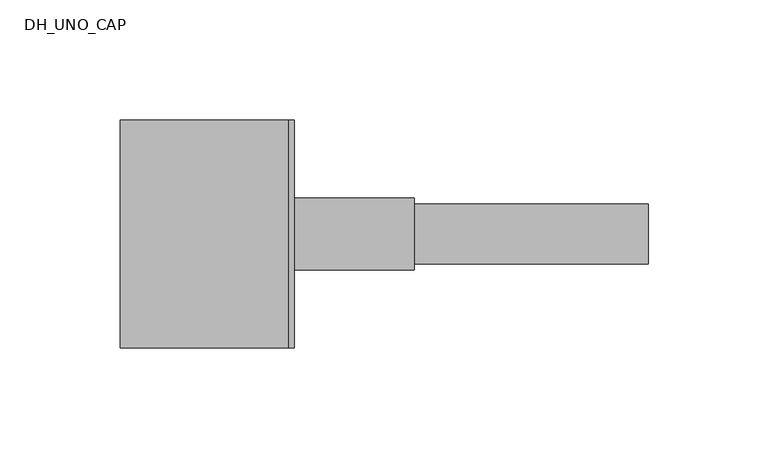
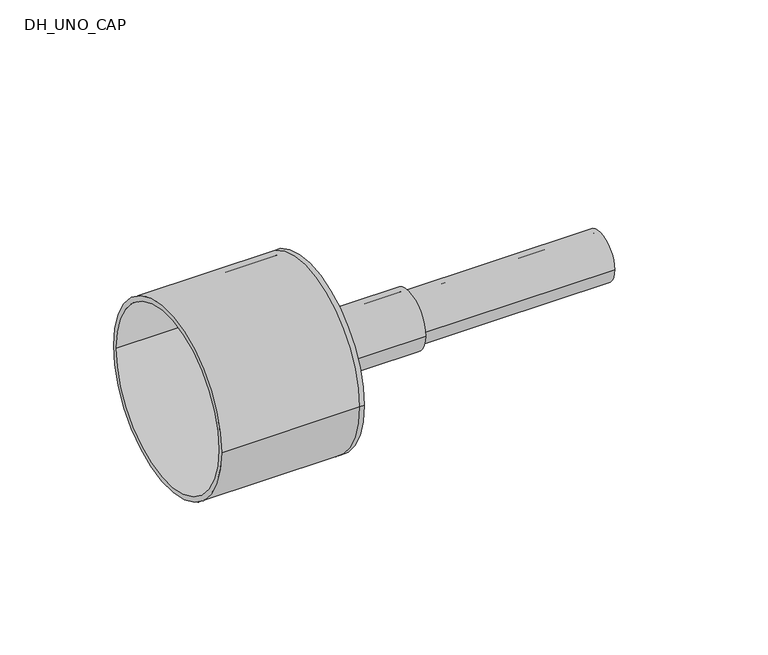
"""IFC4 building model written with IfcOpenShell, lengths in millimetres: pipe fitting geometry, DH_UNO_CAP : INSULPEX UNO + 11 Heating - Rubber Cap."""

from ifc_helpers import new_model, si_unit, point, frame, origin, origin_2d, place, context, project, spatial, polyline, circle_curve, trimmed, segment, composite_curve, outline, extrude, source, transform, mapped, element, save
from ifc_brep_helpers import plane_surface, cylinder_surface, revolved_surface, advanced_brep


def dh_uno_cap_46725ca9(model_context):
    return source(origin(), model_context, "Body", "SolidModel", [
        extrude(outline(composite_curve([segment(trimmed(circle_curve(origin_2d(), 12.5), [point((-12.5, 0.0))], [point((12.5, 0.0))], False, "CARTESIAN"), True, "CONTINUOUS"), segment(trimmed(circle_curve(origin_2d(), 12.5), [point((12.5, 0.0))], [point((-12.5, 0.0))], False, "CARTESIAN"), True, "CONTINUOUS")], self_intersect=False), holes=[composite_curve([segment(trimmed(circle_curve(origin_2d(), 10.2), [point((-10.2, 0.0))], [point((10.2, 0.0))], True, "CARTESIAN"), True, "CONTINUOUS"), segment(trimmed(circle_curve(origin_2d(), 10.2), [point((10.2, 0.0))], [point((-10.2, 0.0))], True, "CARTESIAN"), True, "CONTINUOUS")], self_intersect=False)]), frame((0.0, 0.0, 0.0), z_axis=(1.0, 0.0, 0.0), x_axis=(0.0, 1.0, 0.0)), (0.0, 0.0, 1.0), 150.0),
        advanced_brep(
        [(-70.0, -47.5, 0.0), (-70.0, 47.5, 0.0), (-70.0, -45.0, 0.0), (-70.0, 45.0, 0.0), (0.0, -45.0, 0.0), (0.0, 45.0, 0.0), (0.0, -47.5, 0.0), (0.0, 47.5, 0.0), (0.0, 12.5, 0.0), (0.0, -12.5, 0.0), (2.5, -47.5, 0.0), (2.5, 47.5, 0.0), (2.5, -12.5, 0.0), (2.5, 12.5, 0.0)],
        [
            (0, 1, circle_curve(frame((-70.0, 0.0, 0.0), z_axis=(-1.0, 0.0, 0.0), x_axis=(0.0, 1.0, 0.0)), 47.5)),
            (1, 0, circle_curve(frame((-70.0, 0.0, 0.0), z_axis=(-1.0, 0.0, 0.0), x_axis=(0.0, 1.0, 0.0)), 47.5)),
            (2, 3, circle_curve(frame((-70.0, 0.0, 0.0), z_axis=(1.0, 0.0, 0.0), x_axis=(0.0, 1.0, 0.0)), 45.0)),
            (3, 2, circle_curve(frame((-70.0, 0.0, 0.0), z_axis=(1.0, 0.0, 0.0), x_axis=(0.0, 1.0, 0.0)), 45.0)),
            (2, 4),
            (4, 5, circle_curve(frame((0.0, 0.0, 0.0), z_axis=(1.0, 0.0, 0.0), x_axis=(0.0, 1.0, 0.0)), 45.0)),
            (5, 3),
            (5, 4, circle_curve(frame((0.0, 0.0, 0.0), z_axis=(1.0, 0.0, 0.0), x_axis=(0.0, 1.0, 0.0)), 45.0)),
            (0, 6),
            (6, 7, circle_curve(frame((0.0, 0.0, 0.0), z_axis=(-1.0, 0.0, 0.0), x_axis=(0.0, 1.0, 0.0)), 47.5)),
            (7, 1),
            (7, 6, circle_curve(frame((0.0, 0.0, 0.0), z_axis=(-1.0, 0.0, 0.0), x_axis=(0.0, 1.0, 0.0)), 47.5)),
            (8, 9, circle_curve(frame((0.0, 0.0, 0.0), z_axis=(1.0, 0.0, 0.0), x_axis=(0.0, 1.0, 0.0)), 12.5)),
            (9, 8, circle_curve(frame((0.0, 0.0, 0.0), z_axis=(1.0, 0.0, 0.0), x_axis=(0.0, 1.0, 0.0)), 12.5)),
            (10, 11, circle_curve(frame((2.5, 0.0, 0.0), z_axis=(1.0, 0.0, 0.0), x_axis=(0.0, 1.0, 0.0)), 47.5)),
            (11, 10, circle_curve(frame((2.5, 0.0, 0.0), z_axis=(1.0, 0.0, 0.0), x_axis=(0.0, 1.0, 0.0)), 47.5)),
            (12, 13, circle_curve(frame((2.5, 0.0, 0.0), z_axis=(-1.0, 0.0, 0.0), x_axis=(0.0, 1.0, 0.0)), 12.5)),
            (13, 12, circle_curve(frame((2.5, 0.0, 0.0), z_axis=(-1.0, 0.0, 0.0), x_axis=(0.0, 1.0, 0.0)), 12.5)),
            (11, 7),
            (6, 10),
            (8, 13),
            (12, 9),
        ],
        [
            plane_surface(frame((-70.0, 0.0, 0.0), z_axis=(-1.0, 0.0, 0.0), x_axis=(0.0, 0.0, 1.0))),
            revolved_surface(polyline([(0.0, 45.0, 0.0), (-70.0, 45.0, 0.0)]), (-70.0, 0.0, 0.0), (1.0, 0.0, 0.0)),
            cylinder_surface(frame((-70.0, 0.0, 0.0), z_axis=(-1.0, 0.0, 0.0), x_axis=(0.0, 1.0, 0.0)), 47.5),
            plane_surface(frame((0.0, 0.0, 0.0), z_axis=(-1.0, 0.0, 0.0), x_axis=(0.0, 0.0, 1.0))),
            plane_surface(frame((2.5, 0.0, 0.0), z_axis=(1.0, 0.0, 0.0), x_axis=(0.0, 0.0, 1.0))),
            cylinder_surface(frame((0.0, 0.0, 0.0), z_axis=(-1.0, 0.0, 0.0), x_axis=(0.0, 1.0, 0.0)), 47.5),
            revolved_surface(polyline([(0.0, 12.5, 0.0), (2.5, 12.5, 0.0)]), (0.0, 0.0, 0.0), (-1.0, 0.0, 0.0)),
        ],
        [
            (0, [[1, 2], [3, 4]]),
            (1, [[-3, 5, 6, 7]]),
            (1, [[-4, -7, 8, -5]]),
            (2, [[-1, 9, 10, 11]]),
            (2, [[-2, -11, 12, -9]]),
            (3, [[-6, -8], [13, 14]]),
            (4, [[15, 16], [17, 18]]),
            (5, [[-16, 19, -10, 20]]),
            (5, [[-15, -20, -12, -19]]),
            (6, [[21, -17, 22, -13]]),
            (6, [[-21, -14, -22, -18]]),
        ],
    ),
        extrude(outline(composite_curve([segment(trimmed(circle_curve(origin_2d(), 15.0), [point((-15.0, 0.0))], [point((15.0, 0.0))], False, "CARTESIAN"), True, "CONTINUOUS"), segment(trimmed(circle_curve(origin_2d(), 15.0), [point((15.0, 0.0))], [point((-15.0, 0.0))], False, "CARTESIAN"), True, "CONTINUOUS")], self_intersect=False), holes=[composite_curve([segment(trimmed(circle_curve(origin_2d(), 12.5), [point((-12.5, 0.0))], [point((12.5, 0.0))], True, "CARTESIAN"), True, "CONTINUOUS"), segment(trimmed(circle_curve(origin_2d(), 12.5), [point((12.5, 0.0))], [point((-12.5, 0.0))], True, "CARTESIAN"), True, "CONTINUOUS")], self_intersect=False)]), frame((2.5, 0.0, 0.0), z_axis=(1.0, 0.0, 0.0), x_axis=(0.0, 1.0, 0.0)), (0.0, 0.0, 1.0), 50.0),
    ])


if __name__ == "__main__":
    model = new_model("IFC4")
    model_context = context("Model", 3, world=origin())
    ifc_project = project(units=[si_unit("LENGTHUNIT", "METRE", prefix="MILLI")], contexts=[model_context])
    site = spatial("IfcSite", under=ifc_project)
    building = spatial("IfcBuilding", under=site)
    placement = place(None, origin())
    dh_uno_cap_shape = dh_uno_cap_46725ca9(model_context)
    element("IfcPipeFitting", 1, ObjectType="DH_UNO_CAP : INSULPEX UNO + 11 Heating - Rubber Cap", at=placement, inside=building, context=model_context, shape_type="MappedRepresentation", body=[
        mapped(dh_uno_cap_shape, transform((0.0, 0.0, 0.0), x_axis=(1.0, 0.0, 0.0), y_axis=(0.0, 1.0, 0.0), z_axis=(0.0, 0.0, 1.0))),
    ])
    save(model, "model.ifc")
